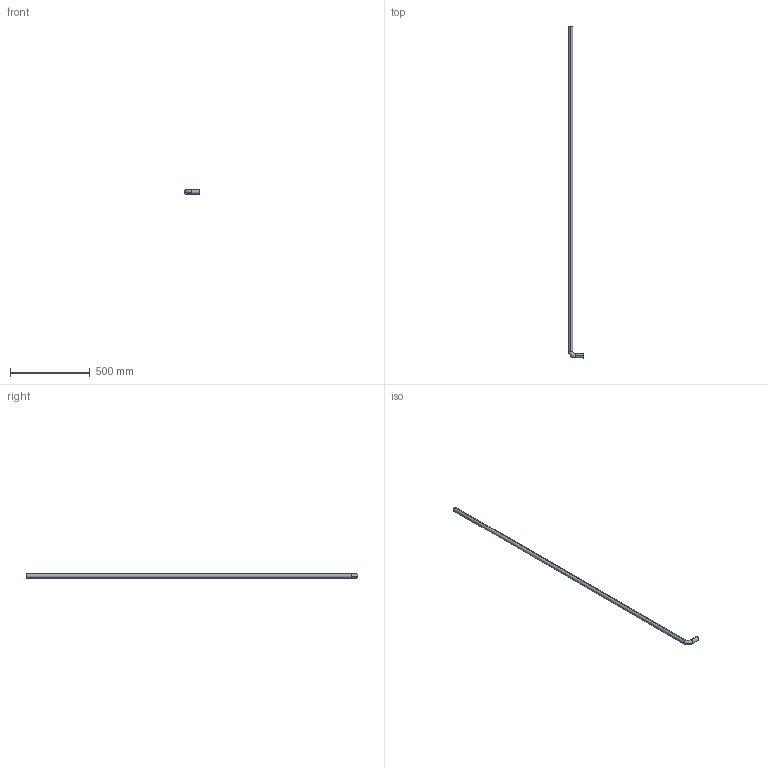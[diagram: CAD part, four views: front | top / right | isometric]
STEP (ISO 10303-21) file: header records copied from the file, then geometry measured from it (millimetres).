
FILE_DESCRIPTION (( 'STEP AP214' ), '1' );
FILE_NAME ('CCJ029-REP.206 - LISSE PLATEFORME INFERIEUR A1-B1.STEP', '2025-10-30T15:38:18', ( '' ), ( '' ), 'SwSTEP 2.0', 'SolidWorks 2021', '' );
FILE_SCHEMA (( 'AUTOMOTIVE_DESIGN' ));
Length unit declared in the file: millimetre
Products named in the file (1): CCJ029-REP.206 - LISSE PLATEFORME INFERIEUR A1-B1
Bounding box: 93.45 x 2076.45 x 26.9 mm (x, y, z)
Volume: 378708.6 mm3; surface area: 329667.3 mm2
Topology: 1 solids, 1 shells, 14 faces, 36 edges, 24 vertices
Faces by surface type: cylinder 8, torus 4, plane 2
Entity records: 486 total; most frequent: DIRECTION 94, CARTESIAN_POINT 75, ORIENTED_EDGE 72, AXIS2_PLACEMENT_3D 43, EDGE_CURVE 36, CIRCLE 28, VERTEX_POINT 24, EDGE_LOOP 16
